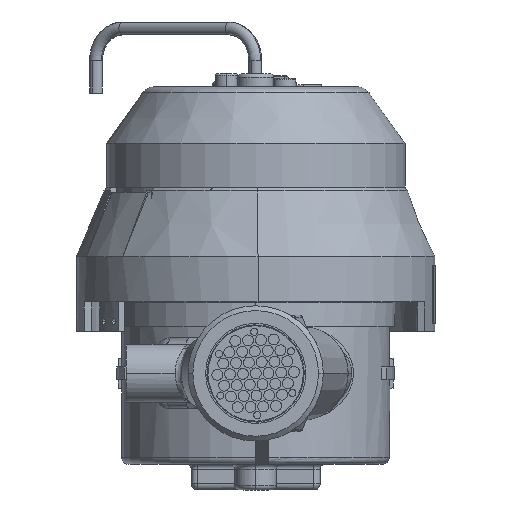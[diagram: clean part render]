
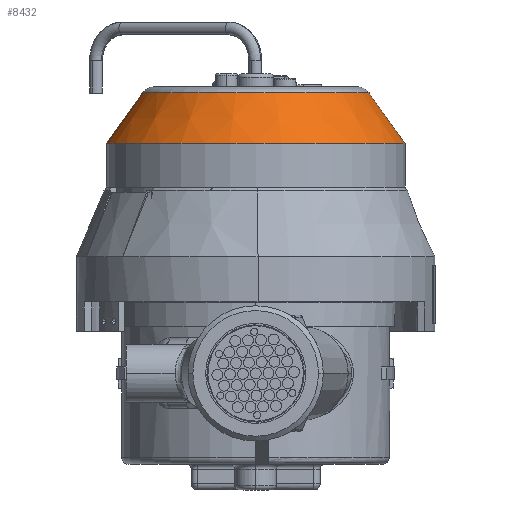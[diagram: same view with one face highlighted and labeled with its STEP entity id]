
A CAD part, front view. The second image highlights one B-rep face of the part: STEP entity #8432.
In plain terms, the highlighted conical face has half-angle 35.507 degrees and reference radius 46.25 mm.
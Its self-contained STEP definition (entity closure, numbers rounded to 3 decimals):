
#1548 = LINE ( 'NONE', #29696, #45440 ) ;
#3203 = DIRECTION ( 'NONE',  ( 0., 0., -1. ) ) ;
#3636 = EDGE_CURVE ( 'NONE', #49150, #25689, #19606, .T. ) ;
#3828 = CARTESIAN_POINT ( 'NONE',  ( 165.422, 193.717, 153.169 ) ) ;
#3842 = CARTESIAN_POINT ( 'NONE',  ( 165.422, 193.717, 153.169 ) ) ;
#4343 = CONICAL_SURFACE ( 'NONE', #22967, 46.25, 0.62 ) ;
#5347 = DIRECTION ( 'NONE',  ( -0.581, 0., -0.814 ) ) ;
#6097 = VECTOR ( 'NONE', #5347, 1000. ) ;
#7382 = ORIENTED_EDGE ( 'NONE', *, *, #3636, .F. ) ;
#8432 = ADVANCED_FACE ( 'NONE', ( #27089 ), #4343, .T. ) ;
#9879 = EDGE_CURVE ( 'NONE', #52465, #49150, #1548, .T. ) ;
#12253 = ORIENTED_EDGE ( 'NONE', *, *, #35487, .T. ) ;
#13250 = CIRCLE ( 'NONE', #56983, 35.096 ) ;
#15559 = ORIENTED_EDGE ( 'NONE', *, *, #37507, .T. ) ;
#17905 = DIRECTION ( 'NONE',  ( -1., 0., 0. ) ) ;
#18800 = EDGE_LOOP ( 'NONE', ( #38119, #15559, #12253, #7382 ) ) ;
#19606 = CIRCLE ( 'NONE', #29352, 46.25 ) ;
#22967 = AXIS2_PLACEMENT_3D ( 'NONE', #3842, #59772, #17905 ) ;
#23728 = LINE ( 'NONE', #51805, #6097 ) ;
#25689 = VERTEX_POINT ( 'NONE', #50710 ) ;
#26472 = CARTESIAN_POINT ( 'NONE',  ( 165.422, 193.717, 168.802 ) ) ;
#27089 = FACE_OUTER_BOUND ( 'NONE', #18800, .T. ) ;
#28701 = CARTESIAN_POINT ( 'NONE',  ( 211.672, 193.717, 153.169 ) ) ;
#29352 = AXIS2_PLACEMENT_3D ( 'NONE', #3828, #40190, #36219 ) ;
#29696 = CARTESIAN_POINT ( 'NONE',  ( 211.672, 193.717, 153.169 ) ) ;
#33993 = VERTEX_POINT ( 'NONE', #35563 ) ;
#34175 = CARTESIAN_POINT ( 'NONE',  ( 200.518, 193.717, 168.802 ) ) ;
#35487 = EDGE_CURVE ( 'NONE', #33993, #25689, #23728, .T. ) ;
#35563 = CARTESIAN_POINT ( 'NONE',  ( 130.326, 193.717, 168.802 ) ) ;
#36219 = DIRECTION ( 'NONE',  ( -1., 0., 0. ) ) ;
#37507 = EDGE_CURVE ( 'NONE', #52465, #33993, #13250, .T. ) ;
#38119 = ORIENTED_EDGE ( 'NONE', *, *, #9879, .F. ) ;
#40190 = DIRECTION ( 'NONE',  ( 0., 0., -1. ) ) ;
#45427 = DIRECTION ( 'NONE',  ( -1., 0., 0. ) ) ;
#45440 = VECTOR ( 'NONE', #56868, 1000. ) ;
#49150 = VERTEX_POINT ( 'NONE', #28701 ) ;
#50710 = CARTESIAN_POINT ( 'NONE',  ( 119.172, 193.717, 153.169 ) ) ;
#51805 = CARTESIAN_POINT ( 'NONE',  ( 119.172, 193.717, 153.169 ) ) ;
#52465 = VERTEX_POINT ( 'NONE', #34175 ) ;
#56868 = DIRECTION ( 'NONE',  ( 0.581, 0., -0.814 ) ) ;
#56983 = AXIS2_PLACEMENT_3D ( 'NONE', #26472, #3203, #45427 ) ;
#59772 = DIRECTION ( 'NONE',  ( 0., 0., -1. ) ) ;
